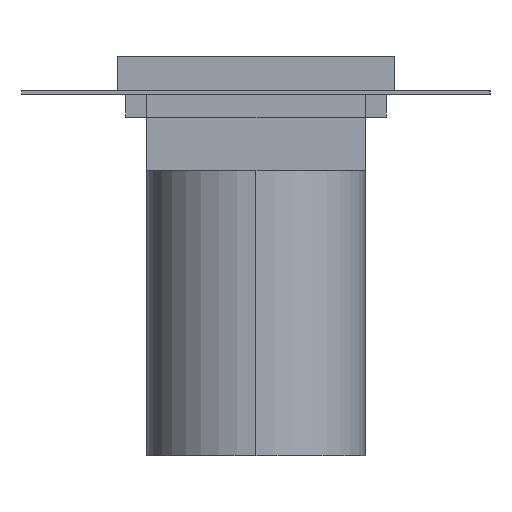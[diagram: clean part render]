
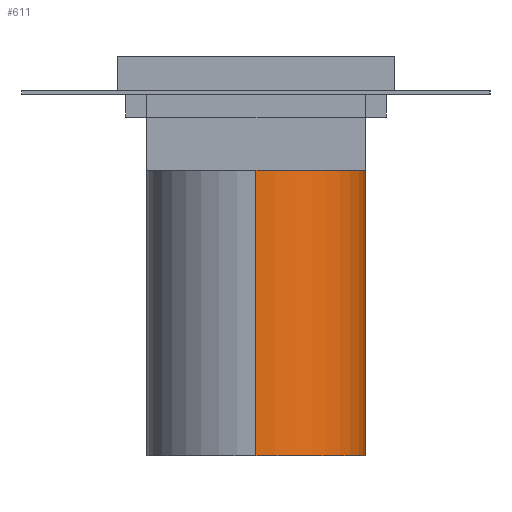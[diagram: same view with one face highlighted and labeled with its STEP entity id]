
A CAD part, left-side view. The second image highlights one B-rep face of the part: STEP entity #611.
In plain terms, the highlighted cylindrical face has radius 57.35 mm (diameter 114.7 mm), a partial arc.
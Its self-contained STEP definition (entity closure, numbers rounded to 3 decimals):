
#13=CIRCLE('',#676,57.35);
#14=CIRCLE('',#677,57.35);
#17=CYLINDRICAL_SURFACE('',#675,57.35);
#43=FACE_OUTER_BOUND('',#84,.T.);
#84=EDGE_LOOP('',(#450,#451,#452,#453));
#137=LINE('',#929,#214);
#138=LINE('',#932,#215);
#214=VECTOR('',#758,304.8);
#215=VECTOR('',#761,304.8);
#283=VERTEX_POINT('',#925);
#284=VERTEX_POINT('',#926);
#285=VERTEX_POINT('',#928);
#286=VERTEX_POINT('',#930);
#345=EDGE_CURVE('',#283,#284,#13,.T.);
#346=EDGE_CURVE('',#285,#283,#137,.T.);
#347=EDGE_CURVE('',#286,#285,#14,.T.);
#348=EDGE_CURVE('',#284,#286,#138,.T.);
#450=ORIENTED_EDGE('',*,*,#345,.F.);
#451=ORIENTED_EDGE('',*,*,#346,.F.);
#452=ORIENTED_EDGE('',*,*,#347,.F.);
#453=ORIENTED_EDGE('',*,*,#348,.F.);
#611=ADVANCED_FACE('',(#43),#17,.T.);
#675=AXIS2_PLACEMENT_3D('',#924,#754,#755);
#676=AXIS2_PLACEMENT_3D('',#927,#756,#757);
#677=AXIS2_PLACEMENT_3D('',#931,#759,#760);
#754=DIRECTION('center_axis',(0.,0.,1.));
#755=DIRECTION('ref_axis',(-1.,0.,0.));
#756=DIRECTION('center_axis',(0.,0.,1.));
#757=DIRECTION('ref_axis',(-1.,0.,0.));
#758=DIRECTION('',(0.,0.,1.));
#759=DIRECTION('center_axis',(0.,0.,-1.));
#760=DIRECTION('ref_axis',(-1.,0.,0.));
#761=DIRECTION('',(0.,0.,-1.));
#924=CARTESIAN_POINT('Origin',(0.,0.,
-210.));
#925=CARTESIAN_POINT('',(-57.35,0.,-60.));
#926=CARTESIAN_POINT('',(57.35,0.,-60.));
#927=CARTESIAN_POINT('Origin',(0.,0.,
-60.));
#928=CARTESIAN_POINT('',(-57.35,0.,-210.));
#929=CARTESIAN_POINT('',(-57.35,0.,-210.));
#930=CARTESIAN_POINT('',(57.35,0.,-210.));
#931=CARTESIAN_POINT('Origin',(0.,0.,
-210.));
#932=CARTESIAN_POINT('',(57.35,0.,-60.));
